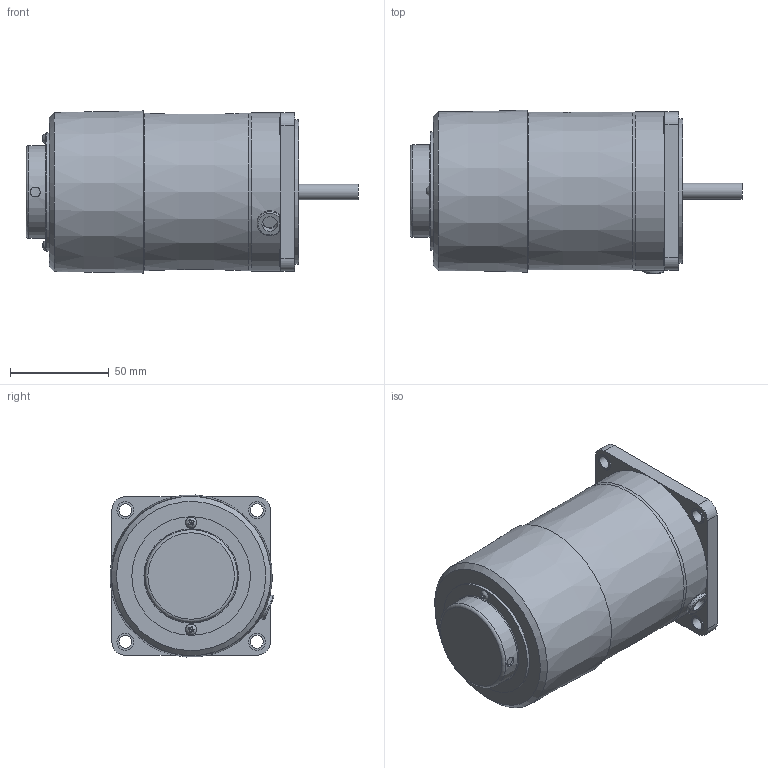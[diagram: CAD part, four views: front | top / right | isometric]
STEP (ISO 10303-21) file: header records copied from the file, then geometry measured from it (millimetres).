
FILE_DESCRIPTION(/* description */ (''),/* implementation_level */ '2;1');
FILE_NAME(/* name */ 'Y:\제품연구개발\3. 도면\3. 고객배포용\3D_홈페이지용\01-1 Standard AC SG Series\05-3 SPEED CONTROL ELECTROMAGNETIC BRAKE MOTOR(ES)\SG8R25_-ES12\SG8R25S-ES.stp',/* time_stamp */ '2023-11-29T14:41:10+09:00',/* author */ ('shyi1037'),/* organization */ (''),/* preprocessor_version */ 'ST-DEVELOPER v18.1',/* originating_system */ 'Autodesk Inventor 2022',/* authorisation */ '');
FILE_SCHEMA (('AUTOMOTIVE_DESIGN { 1 0 10303 214 3 1 1 }'));
Length unit declared in the file: millimetre
Products named in the file (1): S8R15(25)S-ES
Bounding box: 167.7 x 82.72 x 81.86 mm (x, y, z)
Volume: 654058.8 mm3; surface area: 51225.2 mm2
Topology: 1 solids, 6 shells, 143 faces, 329 edges, 216 vertices
Faces by surface type: plane 86, cylinder 43, torus 9, cone 3, bspline 2
Full cylindrical faces by diameter (mm): 3 x2, 3.5 x2, 5 x1, 5.6 x2, 6.5 x4, 8 x2, 8.5 x4, 34 x1, 44.7 x1, 46.7 x1, 47.7 x1, 59.9 x1, 73 x1, 78 x1, 80 x1
Entity records: 4408 total; most frequent: CARTESIAN_POINT 1014, DIRECTION 692, ORIENTED_EDGE 658, EDGE_CURVE 329, AXIS2_PLACEMENT_3D 257, VERTEX_POINT 216, LINE 178, VECTOR 178
